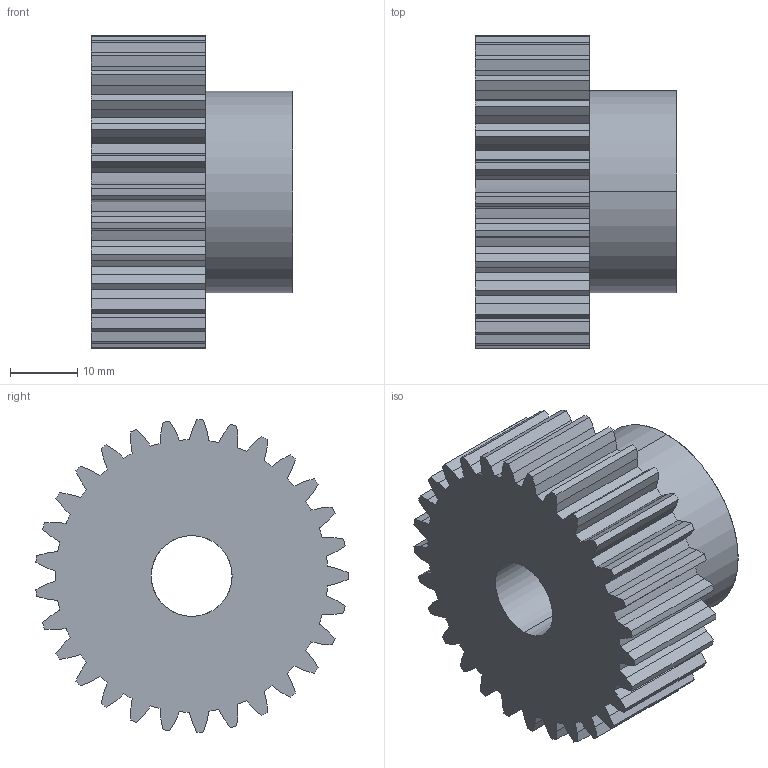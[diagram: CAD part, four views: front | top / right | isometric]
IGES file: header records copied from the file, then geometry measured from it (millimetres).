
Start section: SolidWorks IGES file using analytic representation for surfaces
Global section: file name: C:\Users\Honza\Desktop\Matis (Hotove)\Èelní ozubená kola\PM\MODUL 1,5\PM 27029.IGS; native system: SolidWorks 2010; preprocessor: SolidWorks 2010; author: Honza; date: 130924.120818; units: millimetre
Bounding box: 30 x 46.41 x 46.48 mm (x, y, z)
Surface area: 9437.3 mm2 (no closed solid volume)
Topology: 0 solids, 0 shells, 181 faces, 1254 edges, 1254 vertices
Faces by surface type: bspline 119, revolution 62
